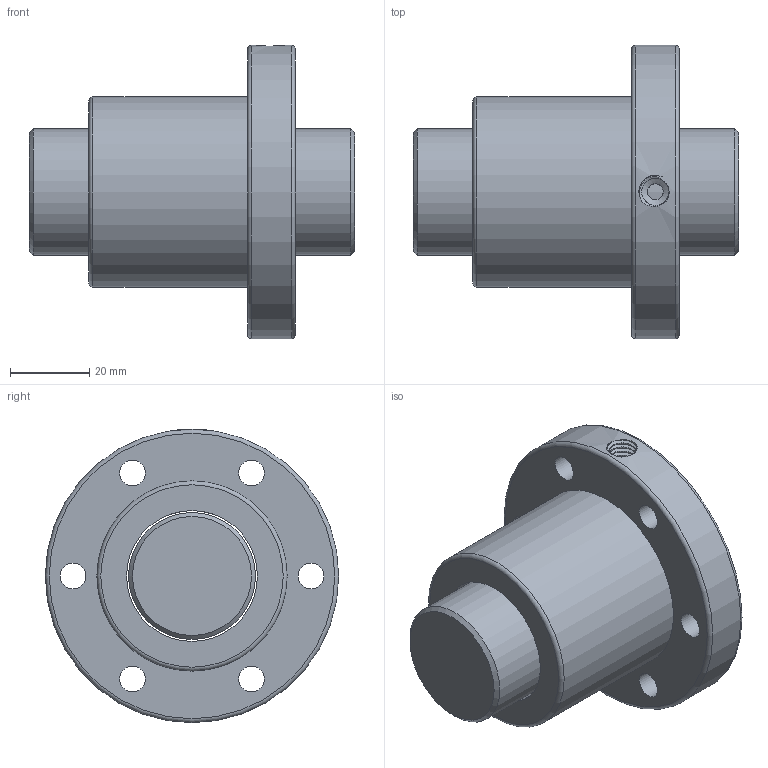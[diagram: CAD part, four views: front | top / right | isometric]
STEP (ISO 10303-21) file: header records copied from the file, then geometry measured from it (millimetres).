
FILE_DESCRIPTION(/* description */ ('Unknown','CAx-IF Rec.Pracs.---Representation and Presentation of Product Manufacturing Information (PMI)---4.0---2014-10-13','CAx-IF Rec.Pracs.---3D Tessellated Geometry---0.4---2014-09-14','2;1'),/* implementation_level */ '2;1');
FILE_NAME(/* name */ 'SFM03205',/* time_stamp */ '2020-12-08T11:47:08+08:00',/* author */ ('Unknown'),/* organization */ ('Unknown'),/* preprocessor_version */ 'ST-DEVELOPER v16.7',/* originating_system */ 'Solid Edge',/* authorisation */ 'Unknown');
FILE_SCHEMA (('AP242_MANAGED_MODEL_BASED_3D_ENGINEERING_MIM_LF { 1 0 10303 442 1 1 4 }'));
Length unit declared in the file: millimetre
Products named in the file (1): SFM03205
Bounding box: 82 x 74 x 74 mm (x, y, z)
Volume: 139927.4 mm3; surface area: 32605.1 mm2
Topology: 2 solids, 2 shells, 40 faces, 85 edges, 56 vertices
Faces by surface type: cylinder 20, plane 12, torus 3, cone 3, bspline 2
Full cylindrical faces by diameter (mm): 4 x1, 6.5 x6, 6.917 x1, 11 x6, 32 x1, 33 x1, 48 x1, 74 x1
Entity records: 2821 total; most frequent: CARTESIAN_POINT 1985, DIRECTION 168, ORIENTED_EDGE 106, EDGE_LOOP 87, FACE_BOUND 87, AXIS2_PLACEMENT_3D 85, EDGE_CURVE 53, VERTEX_POINT 48
